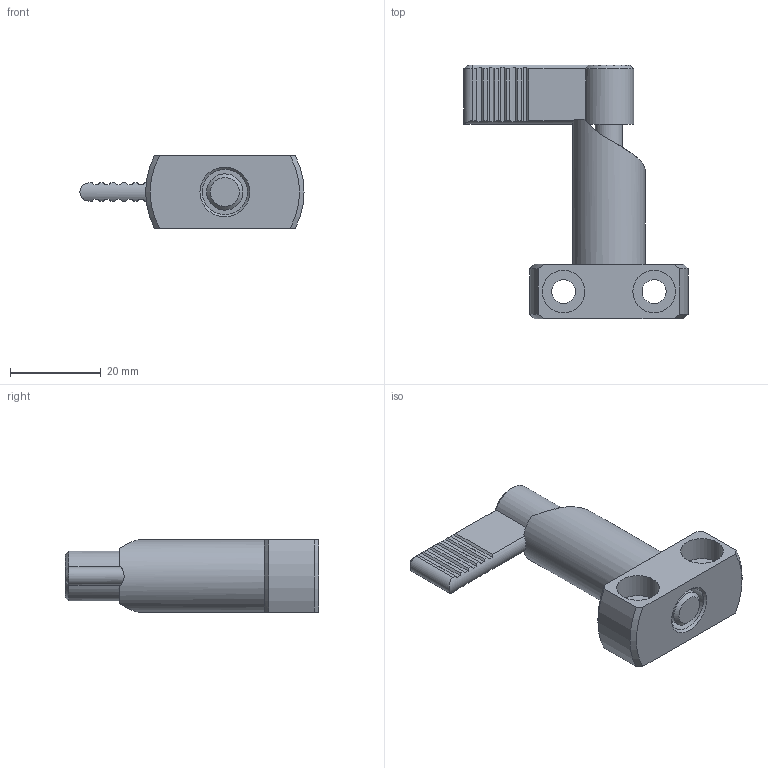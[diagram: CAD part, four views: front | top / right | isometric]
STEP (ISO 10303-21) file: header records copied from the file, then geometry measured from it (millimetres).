
FILE_DESCRIPTION( ( 'STEP AP203' ), '1' );
FILE_NAME( 'C:/Temp/Ganter_Step_05_03_2020/data/3_1/gn612_2/Indexing plunger GN 612.2-8-16-A (activated).stp', '2020-03-12T08:35:05', ( 'License CC BY-ND 4.0' ), ( 'CADENAS' ), ' ', 'PARTsolutions', ' ' );
FILE_SCHEMA( ( 'CONFIG_CONTROL_DESIGN' ) );
Length unit declared in the file: millimetre
Products named in the file (3): Indexing plunger GN 612.2-8-16-A (activated); _Rastriegel GN 612.2-8-16-A (betaetigt)-a; _Rastriegel GN 612.2-8-16-A (betaetigt)-b
Assembly tree (2 placements, depth 2):
  Indexing plunger GN 612.2-8-16-A (activated)
    _Rastriegel GN 612.2-8-16-A (betaetigt)-a
    _Rastriegel GN 612.2-8-16-A (betaetigt)-b
Bounding box: 49.5 x 56 x 16 mm (x, y, z)
Volume: 11915.1 mm3; surface area: 8045.1 mm2
Topology: 2 solids, 2 shells, 105 faces, 260 edges, 169 vertices
Faces by surface type: plane 64, cylinder 30, cone 10, torus 1
Full cylindrical faces by diameter (mm): 5.3 x2, 6 x2, 7.4 x1, 7.6 x1, 8 x1, 9.4 x4, 10 x2, 11 x1, 12 x1, 16 x1
Entity records: 3318 total; most frequent: CARTESIAN_POINT 798, DIRECTION 490, ORIENTED_EDGE 476, EDGE_CURVE 238, AXIS2_PLACEMENT_3D 179, VERTEX_POINT 167, EDGE_LOOP 141, LINE 132
